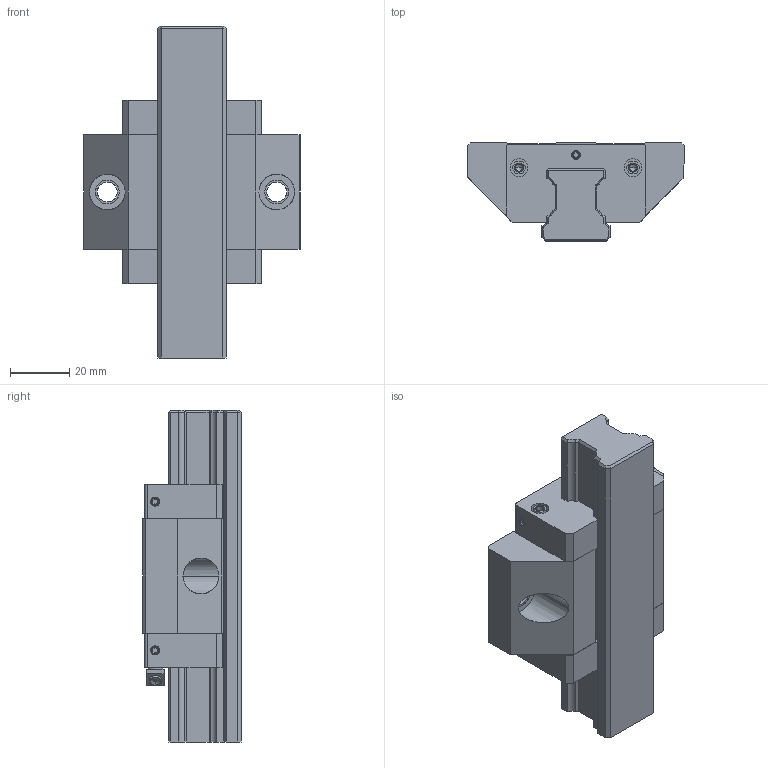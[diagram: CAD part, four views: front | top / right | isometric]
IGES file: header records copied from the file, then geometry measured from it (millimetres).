
Start section: 3D InterOp IGES (v. 2019 1.0.2), Spatial Corp. Copyright (c) 1999-2017.
Global section: file name: R1663_size25.igs; native system: Spatial Corp.; preprocessor: 3D InterOp GENERIC/IGES 3.0; author: Noname; organization: Noname; date: 20220629.125018; units: millimetre
Bounding box: 73 x 33 x 111.7 mm (x, y, z)
Surface area: 36335.6 mm2 (no closed solid volume)
Topology: 0 solids, 0 shells, 386 faces, 1936 edges, 1916 vertices
Faces by surface type: extrusion 221, revolution 165
